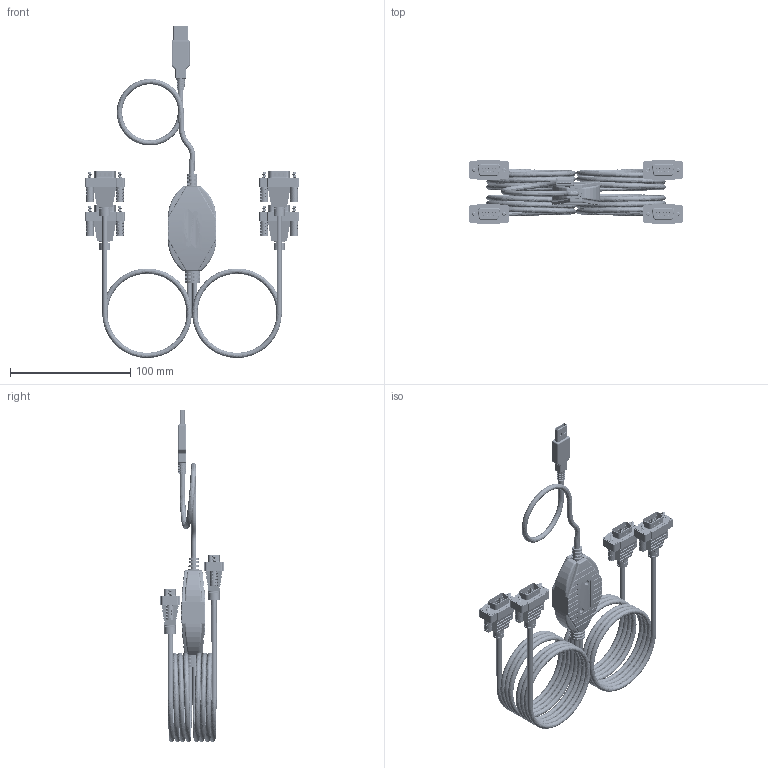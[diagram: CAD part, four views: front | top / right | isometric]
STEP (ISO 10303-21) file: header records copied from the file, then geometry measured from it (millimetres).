
FILE_DESCRIPTION(/* description */ (''),/* implementation_level */ '2;1');
FILE_NAME(/* name */ '/Users/leo/Desktop/Coolgear May/USA-FTDI4X /USA-FTDI4X Model3D LPV1.step',/* time_stamp */ '2021-05-25T14:25:02-04:00',/* author */ (''),/* organization */ (''),/* preprocessor_version */ 'ST-DEVELOPER v18.1',/* originating_system */ 'Autodesk Translation Framework v10.6.0.1341',/* authorisation */ '');
FILE_SCHEMA (('AUTOMOTIVE_DESIGN { 1 0 10303 214 3 1 1 }'));
Products named in the file (15): USA-FTDI4X; Component4; Cord (1); Body10 (1); Component14; 8609N11_FILTERED D-SUB CONNECTOR; 91746A832; USB Cord v3 (1); Component13; USB Cable Head; Cord (1)(Mirror); Component14(Mirror); 8609N11_FILTERED D-SUB CONNECTOR(Mirror); 91746A832(Mirror); Component25
Assembly tree (24 placements, depth 3):
  USA-FTDI4X
    Component4
    Cord (1)
    Body10 (1)
    Component14  x2
    8609N11_FILTERED D-SUB CONNECTOR  x2
    91746A832  x4
    USB Cord v3 (1)
      Component13
    USB Cable Head
    Cord (1)(Mirror)
    Component14(Mirror)  x2
    8609N11_FILTERED D-SUB CONNECTOR(Mirror)  x2
    91746A832(Mirror)  x4
    Component25
Bounding box: 177.78 x 52.98 x 275.75 mm (x, y, z)
Volume: 110947.8 mm3; surface area: 96193.3 mm2
Topology: 38 solids, 40 shells, 7936 faces, 20022 edges, 12460 vertices
Faces by surface type: plane 5294, cylinder 2154, bspline 182, torus 124, sphere 120, cone 62
Full cylindrical faces by diameter (mm): 1 x72, 2 x4, 2.02 x128, 2.45 x2, 2.845 x136, 3 x16, 4 x4, 4.3 x12, 4.4 x8, 6 x2, 9.34 x4
Entity records: 278242 total; most frequent: CARTESIAN_POINT 83135, DIRECTION 44408, ORIENTED_EDGE 39556, EDGE_CURVE 19778, AXIS2_PLACEMENT_3D 18288, VERTEX_POINT 12460, EDGE_LOOP 8546, FACE_OUTER_BOUND 7936
